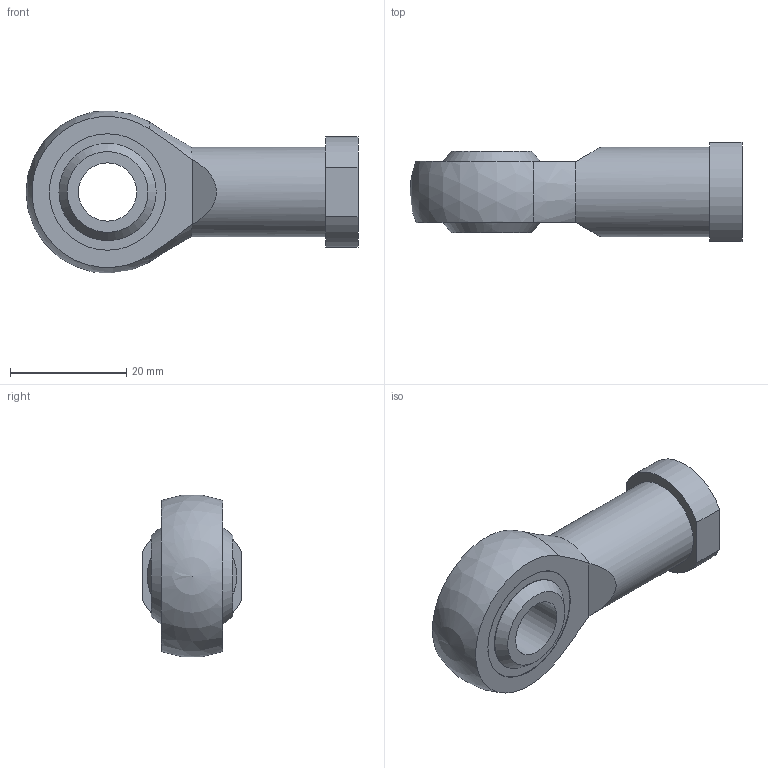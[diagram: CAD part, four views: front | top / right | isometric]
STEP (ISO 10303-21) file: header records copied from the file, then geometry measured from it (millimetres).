
FILE_DESCRIPTION(/* description */ (''),/* implementation_level */ '2;1');
FILE_NAME(/* name */ 'LAOAA-M10x1,25.step',/* time_stamp */ '2019-08-08T12:40:58+02:00',/* author */ ('octogon GmbH'),/* organization */ ('octogon GmbH'),/* preprocessor_version */ 'ST-DEVELOPER v15.6',/* originating_system */ 'Autodesk Inventor LT ',/* authorisation */ '');
FILE_SCHEMA (('AUTOMOTIVE_DESIGN { 1 0 10303 214 3 1 1 }'));
Length unit declared in the file: millimetre
Products named in the file (1): LAOAA-M10x1,25 rod end, stainless steel, female thread M10x1.25
Bounding box: 57 x 17 x 27.73 mm (x, y, z)
Volume: 10186.6 mm3; surface area: 4806.3 mm2
Topology: 1 solids, 1 shells, 29 faces, 65 edges, 42 vertices
Faces by surface type: plane 12, cylinder 10, cone 4, sphere 3
Full cylindrical faces by diameter (mm): 8.647 x2, 10 x1, 15.352 x1, 16.687 x2, 20 x2
Entity records: 780 total; most frequent: DIRECTION 132, CARTESIAN_POINT 122, ORIENTED_EDGE 94, AXIS2_PLACEMENT_3D 59, EDGE_LOOP 48, EDGE_CURVE 47, VERTEX_POINT 37, STYLED_ITEM 30
